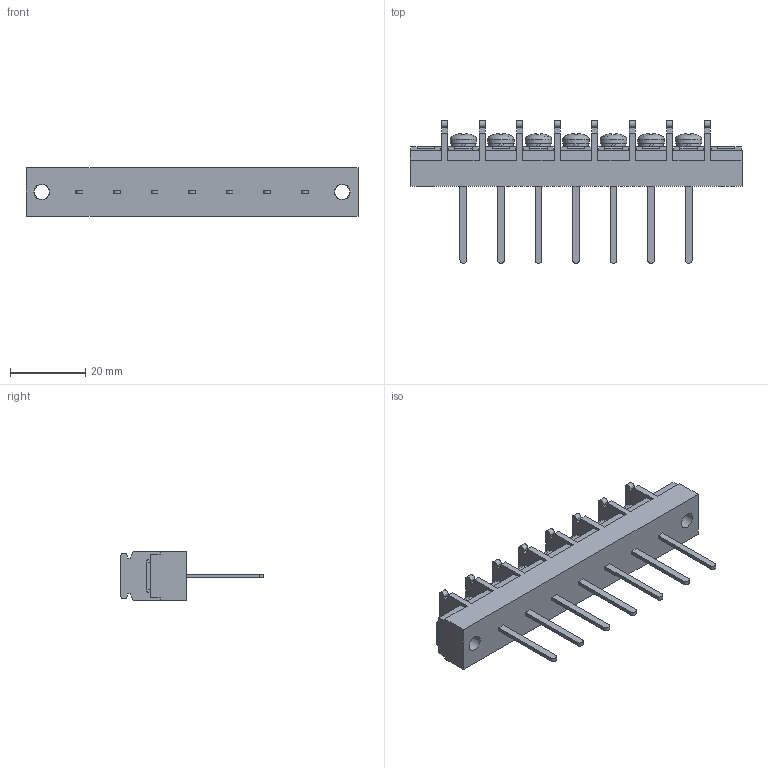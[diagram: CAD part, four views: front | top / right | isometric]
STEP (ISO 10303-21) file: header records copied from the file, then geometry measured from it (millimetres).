
FILE_DESCRIPTION(/* description */ ('Alibre Inc.'),/* implementation_level */ '2;1');
FILE_NAME(/* name */ 'export0',/* time_stamp */ '2015-10-17T19:33:03+09:00',/* author */ (''),/* organization */ (''),/* preprocessor_version */ 'ST-DEVELOPER v14',/* originating_system */ 'Alibre',/* authorisation */ '');
FILE_SCHEMA (('CONFIG_CONTROL_DESIGN'));
Length unit declared in the file: centimetre
Products named in the file (1): ID_1
Bounding box: 88.4 x 38 x 13 mm (x, y, z)
Volume: 13121.3 mm3; surface area: 8187.6 mm2
Topology: 1 solids, 17 shells, 881 faces, 2387 edges, 1585 vertices
Faces by surface type: plane 662, bspline 104, cylinder 66, cone 28, torus 14, sphere 7
Full cylindrical faces by diameter (mm): 4 x9, 4.2 x2, 6.5 x7, 7 x7
Entity records: 26800 total; most frequent: CARTESIAN_POINT 5937, ORIENTED_EDGE 4664, DIRECTION 3298, EDGE_CURVE 2332, VECTOR 1740, LINE 1740, VERTEX_POINT 1562, AXIS2_PLACEMENT_3D 1107
